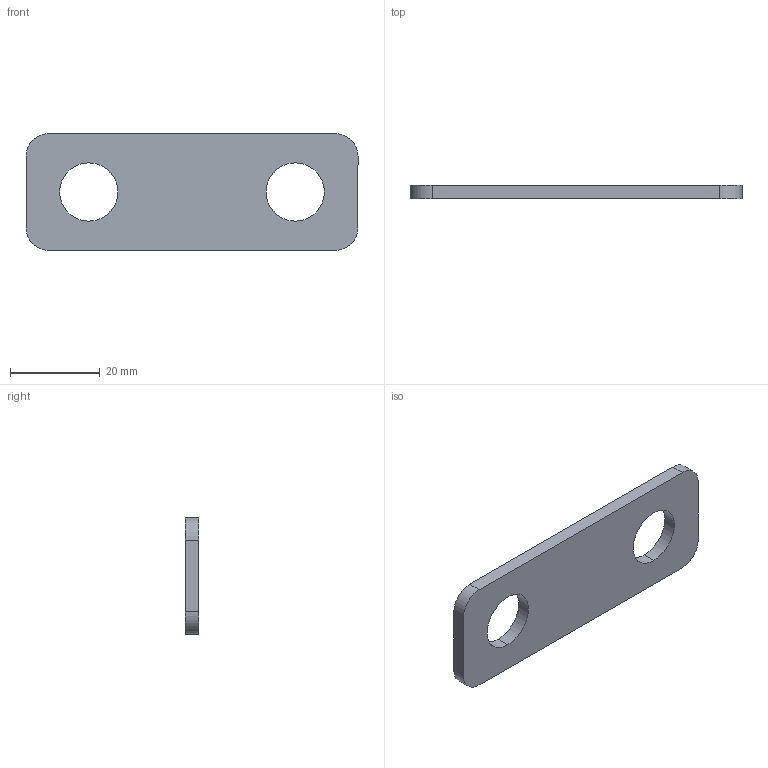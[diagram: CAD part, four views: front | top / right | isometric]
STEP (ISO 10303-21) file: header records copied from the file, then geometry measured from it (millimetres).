
FILE_DESCRIPTION (( 'STEP AP203' ), '1' );
FILE_NAME ('YYDK-150-0023 菜え.STEP', '2026-05-11T08:32:05', ( 'Windows 蚚誧' ), ( '' ), 'SwSTEP 2.0', 'SolidWorks 2020', '' );
FILE_SCHEMA (( 'CONFIG_CONTROL_DESIGN' ));
Length unit declared in the file: millimetre
Products named in the file (1): YYDK-150-0023 菜え
Bounding box: 74 x 3 x 26 mm (x, y, z)
Volume: 4911.2 mm3; surface area: 4093.4 mm2
Topology: 1 solids, 1 shells, 14 faces, 36 edges, 24 vertices
Faces by surface type: cylinder 8, plane 6
Entity records: 521 total; most frequent: DIRECTION 82, CARTESIAN_POINT 75, ORIENTED_EDGE 72, EDGE_CURVE 36, AXIS2_PLACEMENT_3D 31, VERTEX_POINT 24, LINE 20, VECTOR 20
